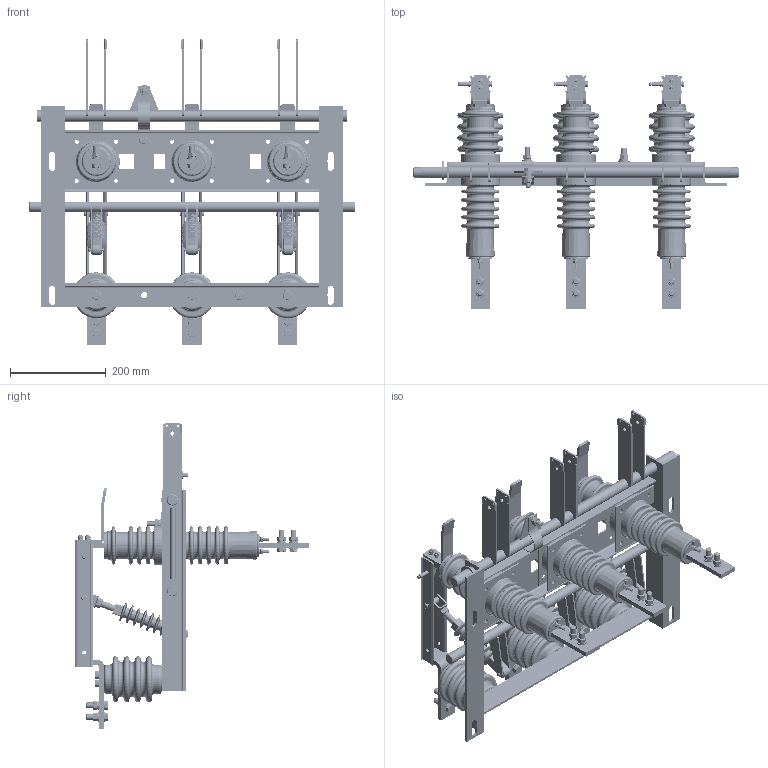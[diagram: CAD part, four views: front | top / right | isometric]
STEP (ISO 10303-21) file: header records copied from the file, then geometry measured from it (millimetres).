
FILE_DESCRIPTION (( 'STEP AP214' ), '1' );
FILE_NAME ('Ðàçúåäèíèòåëü âûñîêîâîëüòíûé ÐÂÔÇ-101000-II-II-ÓÕË2.STEP', '2023-02-06T06:49:56', ( '' ), ( '' ), 'SwSTEP 2.0', 'SolidWorks 2018', '' );
FILE_SCHEMA (( 'AUTOMOTIVE_DESIGN' ));
Length unit declared in the file: millimetre
Products named in the file (1): Ðàçúåäèíèòåëü âûñîêîâîëüòíûé ÐÂÔÇ-101000-II-II-ÓÕË2
Bounding box: 680 x 490 x 638 mm (x, y, z)
Volume: 7640024.2 mm3; surface area: 1781853.6 mm2
Topology: 1 solids, 9 shells, 2598 faces, 6755 edges, 4436 vertices
Faces by surface type: plane 1513, cylinder 670, torus 210, cone 205
Full cylindrical faces by diameter (mm): 4 x12, 4.2 x12, 6 x18, 8 x33, 8.2 x12, 8.4 x6, 8.5 x36, 9 x18, 9.404 x3, 9.531 x3, 9.793 x3, 10 x2, 12 x38, 12.664 x2, 12.888 x2, 13 x12, 13.14 x1, 13.43 x3, 13.557 x1, 13.583 x3, 13.926 x3, 15.2 x3, 16 x6, 17.1 x3, 20 x26, 22 x20, 22.2 x1, 22.38 x1, 23.42 x4, 24 x4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
Entity records: 100488 total; most frequent: CARTESIAN_POINT 42131, ORIENTED_EDGE 11498, DIRECTION 11399, EDGE_CURVE 5749, AXIS2_PLACEMENT_3D 4319, VERTEX_POINT 4126, EDGE_LOOP 3799, FACE_OUTER_BOUND 3110
